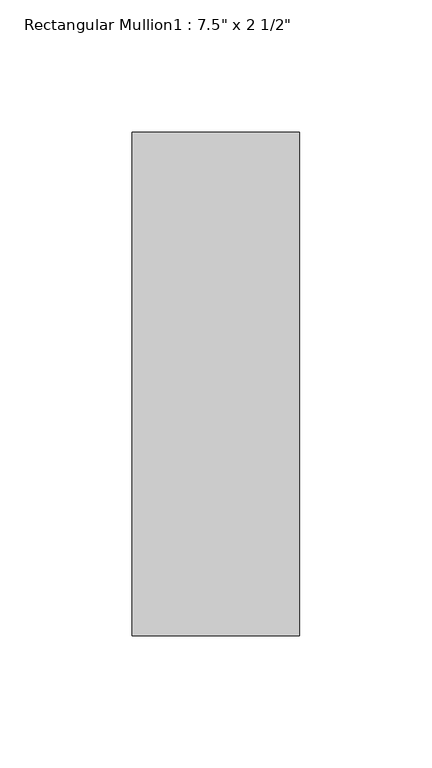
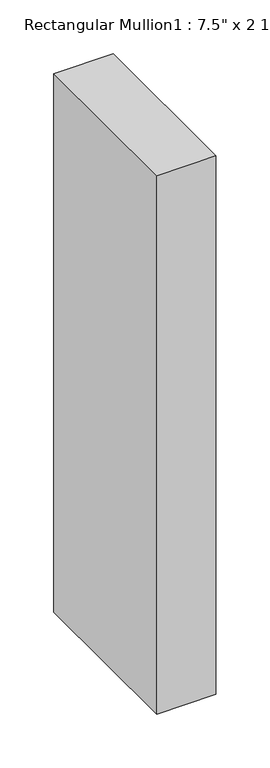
"""IFC4 building model written with IfcOpenShell, lengths in millimetres: member geometry."""

from ifc_helpers import new_model, si_unit, frame, origin, place, context, project, spatial, polyline, outline, extrude, source, transform, mapped, element, save


def member_8ab28bb1(model_context):
    return source(origin(), model_context, "Body", "SweptSolid", [
        extrude(outline(polyline([(-63.5, -165.1), (-63.5, 25.4), (0.0, 25.4), (0.0, -165.1), (-63.5, -165.1)])), frame((0.0, 0.0, -609.6), z_axis=(0.0, 0.0, 1.0), x_axis=(1.0, 0.0, 0.0)), (0.0, 0.0, 1.0), 609.6),
    ])


if __name__ == "__main__":
    model = new_model("IFC4")
    model_context = context("Model", 3, world=origin())
    ifc_project = project(units=[si_unit("LENGTHUNIT", "METRE", prefix="MILLI")], contexts=[model_context])
    site = spatial("IfcSite", under=ifc_project)
    building = spatial("IfcBuilding", under=site)
    placement = place(None, origin())
    member_shape = member_8ab28bb1(model_context)
    element("IfcMember", 1, ObjectType="Rectangular Mullion1 : 7.5\" x 2 1/2\"", at=placement, inside=building, context=model_context, shape_type="MappedRepresentation", body=[
        mapped(member_shape, transform((0.0, 0.0, 0.0), x_axis=(1.0, 0.0, 0.0), y_axis=(0.0, 1.0, 0.0), z_axis=(0.0, 0.0, 1.0))),
    ])
    save(model, "model.ifc")
